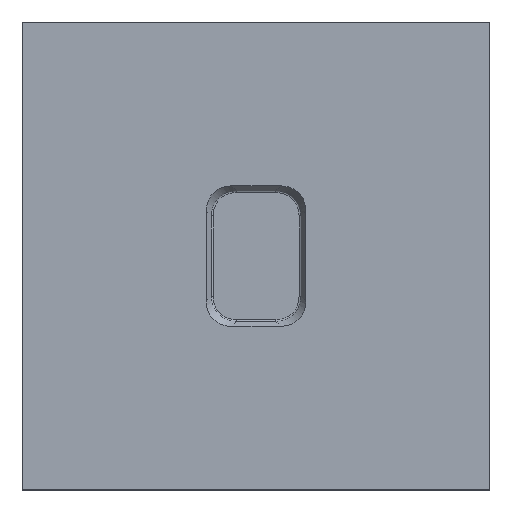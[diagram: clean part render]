
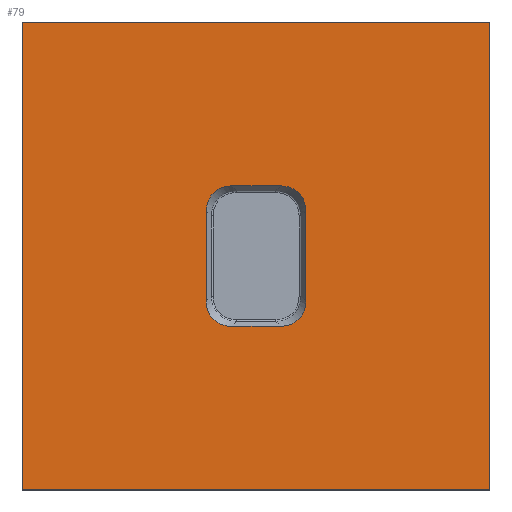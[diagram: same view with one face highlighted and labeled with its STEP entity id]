
A CAD part, top view. The second image highlights one B-rep face of the part: STEP entity #79.
In plain terms, the highlighted planar face has unit normal (0, 0, 1).
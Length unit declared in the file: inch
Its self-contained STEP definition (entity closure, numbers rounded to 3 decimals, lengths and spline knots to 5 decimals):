
#79=ADVANCED_FACE('',(#124,#125),#126,.T.);
#124=FACE_OUTER_BOUND('',#206,.T.);
#125=FACE_BOUND('',#207,.T.);
#126=PLANE('',#208);
#206=EDGE_LOOP('',(#756,#757,#758,#759));
#207=EDGE_LOOP('',(#760,#761,#762,#763,#764,#765,#766,#767));
#208=AXIS2_PLACEMENT_3D('',#768,#769,#770);
#756=ORIENTED_EDGE('',*,*,#1015,.T.);
#757=ORIENTED_EDGE('',*,*,#1018,.T.);
#758=ORIENTED_EDGE('',*,*,#1008,.T.);
#759=ORIENTED_EDGE('',*,*,#1012,.T.);
#760=ORIENTED_EDGE('',*,*,#1020,.F.);
#761=ORIENTED_EDGE('',*,*,#1021,.F.);
#762=ORIENTED_EDGE('',*,*,#1022,.F.);
#763=ORIENTED_EDGE('',*,*,#1023,.F.);
#764=ORIENTED_EDGE('',*,*,#1024,.F.);
#765=ORIENTED_EDGE('',*,*,#1025,.F.);
#766=ORIENTED_EDGE('',*,*,#1026,.F.);
#767=ORIENTED_EDGE('',*,*,#1027,.F.);
#768=CARTESIAN_POINT('',(14.917,17.35,2.78115));
#769=DIRECTION('',(0.0,0.0,1.0));
#770=DIRECTION('',(1.0,0.0,0.0));
#1008=EDGE_CURVE('',#1100,#1101,#1102,.T.);
#1012=EDGE_CURVE('',#1101,#1108,#1109,.T.);
#1015=EDGE_CURVE('',#1108,#1113,#1114,.T.);
#1018=EDGE_CURVE('',#1113,#1100,#1118,.T.);
#1020=EDGE_CURVE('',#1120,#1121,#1122,.T.);
#1021=EDGE_CURVE('',#1123,#1120,#1124,.T.);
#1022=EDGE_CURVE('',#1125,#1123,#1126,.T.);
#1023=EDGE_CURVE('',#1127,#1125,#1128,.T.);
#1024=EDGE_CURVE('',#1129,#1127,#1130,.T.);
#1025=EDGE_CURVE('',#1131,#1129,#1132,.T.);
#1026=EDGE_CURVE('',#1133,#1131,#1134,.T.);
#1027=EDGE_CURVE('',#1121,#1133,#1135,.T.);
#1100=VERTEX_POINT('',#1248);
#1101=VERTEX_POINT('',#1249);
#1102=LINE('',#1250,#1251);
#1108=VERTEX_POINT('',#1260);
#1109=LINE('',#1261,#1262);
#1113=VERTEX_POINT('',#1268);
#1114=LINE('',#1269,#1270);
#1118=LINE('',#1276,#1277);
#1120=VERTEX_POINT('',#1280);
#1121=VERTEX_POINT('',#1281);
#1122=B_SPLINE_CURVE_WITH_KNOTS('',3,(#1282,#1283,#1284,#1285,#1286),.UNSPECIFIED.,.F.,.F.,(4,1,4),(0.0,0.5,1.0),.UNSPECIFIED.);
#1123=VERTEX_POINT('',#1287);
#1124=LINE('',#1288,#1289);
#1125=VERTEX_POINT('',#1290);
#1126=B_SPLINE_CURVE_WITH_KNOTS('',3,(#1291,#1292,#1293,#1294,#1295),.UNSPECIFIED.,.F.,.F.,(4,1,4),(0.0,0.5,1.0),.UNSPECIFIED.);
#1127=VERTEX_POINT('',#1296);
#1128=LINE('',#1297,#1298);
#1129=VERTEX_POINT('',#1299);
#1130=B_SPLINE_CURVE_WITH_KNOTS('',3,(#1300,#1301,#1302,#1303,#1304),.UNSPECIFIED.,.F.,.F.,(4,1,4),(0.0,0.5,1.0),.UNSPECIFIED.);
#1131=VERTEX_POINT('',#1305);
#1132=LINE('',#1306,#1307);
#1133=VERTEX_POINT('',#1308);
#1134=B_SPLINE_CURVE_WITH_KNOTS('',3,(#1309,#1310,#1311,#1312,#1313),.UNSPECIFIED.,.F.,.F.,(4,1,4),(0.0,0.5,1.0),.UNSPECIFIED.);
#1135=LINE('',#1314,#1315);
#1248=CARTESIAN_POINT('',(21.34191,0.35042,2.78115));
#1249=CARTESIAN_POINT('',(23.34152,0.35042,2.78115));
#1250=CARTESIAN_POINT('',(18.64886,0.35042,2.78115));
#1251=VECTOR('',#1608,1.0);
#1260=CARTESIAN_POINT('',(23.34152,2.35037,2.78115));
#1261=CARTESIAN_POINT('',(23.34152,9.3402,2.78115));
#1262=VECTOR('',#1612,1.0);
#1268=CARTESIAN_POINT('',(21.34191,2.35037,2.78115));
#1269=CARTESIAN_POINT('',(18.64886,2.35037,2.78115));
#1270=VECTOR('',#1615,1.0);
#1276=CARTESIAN_POINT('',(21.34191,9.3402,2.78115));
#1277=VECTOR('',#1618,1.0);
#1280=CARTESIAN_POINT('',(22.44625,1.05,2.78115));
#1281=CARTESIAN_POINT('',(22.5545,1.15825,2.78115));
#1282=CARTESIAN_POINT('',(22.44625,1.05,2.78115));
#1283=CARTESIAN_POINT('',(22.48233,1.05,2.78115));
#1284=CARTESIAN_POINT('',(22.53013,1.07437,2.78115));
#1285=CARTESIAN_POINT('',(22.5545,1.12217,2.78115));
#1286=CARTESIAN_POINT('',(22.5545,1.15825,2.78115));
#1287=CARTESIAN_POINT('',(22.23775,1.05,2.78115));
#1288=CARTESIAN_POINT('',(22.23775,1.05,2.78115));
#1289=VECTOR('',#1620,0.20849);
#1290=CARTESIAN_POINT('',(22.1295,1.15825,2.78115));
#1291=CARTESIAN_POINT('',(22.1295,1.15825,2.78115));
#1292=CARTESIAN_POINT('',(22.1295,1.12217,2.78115));
#1293=CARTESIAN_POINT('',(22.15387,1.07437,2.78115));
#1294=CARTESIAN_POINT('',(22.20167,1.05,2.78115));
#1295=CARTESIAN_POINT('',(22.23775,1.05,2.78115));
#1296=CARTESIAN_POINT('',(22.1295,1.54175,2.78115));
#1297=CARTESIAN_POINT('',(22.1295,1.54175,2.78115));
#1298=VECTOR('',#1621,0.38349);
#1299=CARTESIAN_POINT('',(22.23775,1.65,2.78115));
#1300=CARTESIAN_POINT('',(22.23775,1.65,2.78115));
#1301=CARTESIAN_POINT('',(22.20167,1.65,2.78115));
#1302=CARTESIAN_POINT('',(22.15387,1.62563,2.78115));
#1303=CARTESIAN_POINT('',(22.1295,1.57783,2.78115));
#1304=CARTESIAN_POINT('',(22.1295,1.54175,2.78115));
#1305=CARTESIAN_POINT('',(22.44625,1.65,2.78115));
#1306=CARTESIAN_POINT('',(22.44625,1.65,2.78115));
#1307=VECTOR('',#1622,0.20849);
#1308=CARTESIAN_POINT('',(22.5545,1.54175,2.78115));
#1309=CARTESIAN_POINT('',(22.5545,1.54175,2.78115));
#1310=CARTESIAN_POINT('',(22.5545,1.57783,2.78115));
#1311=CARTESIAN_POINT('',(22.53013,1.62563,2.78115));
#1312=CARTESIAN_POINT('',(22.48233,1.65,2.78115));
#1313=CARTESIAN_POINT('',(22.44625,1.65,2.78115));
#1314=CARTESIAN_POINT('',(22.5545,1.15825,2.78115));
#1315=VECTOR('',#1623,0.38349);
#1608=DIRECTION('',(1.0,0.0,0.0));
#1612=DIRECTION('',(0.0,1.0,0.0));
#1615=DIRECTION('',(-1.0,0.0,0.0));
#1618=DIRECTION('',(0.0,-1.0,0.0));
#1620=DIRECTION('',(1.0,0.0,0.0));
#1621=DIRECTION('',(0.0,-1.0,0.0));
#1622=DIRECTION('',(-1.0,0.0,0.0));
#1623=DIRECTION('',(0.0,1.0,0.0));
